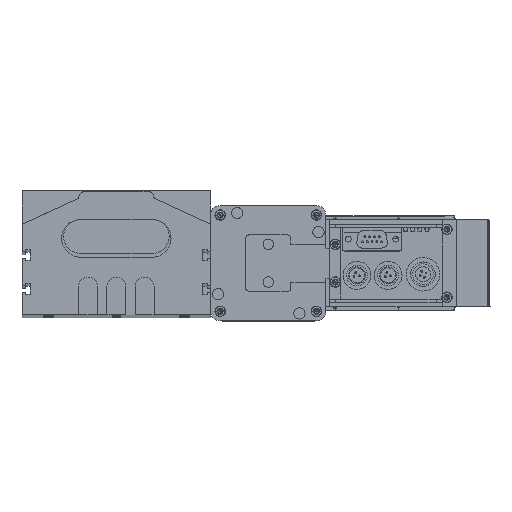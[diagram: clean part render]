
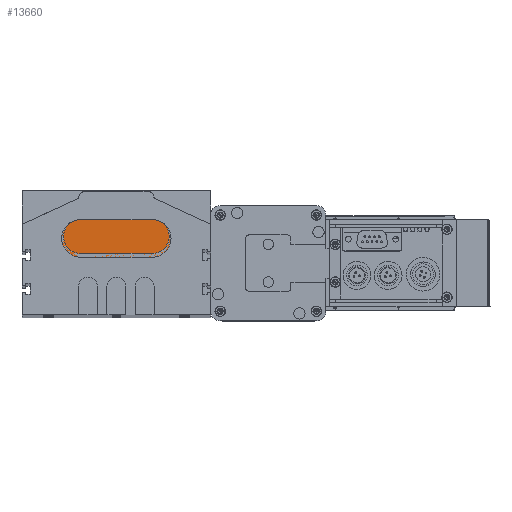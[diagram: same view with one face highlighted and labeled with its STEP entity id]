
A CAD part, top view. The second image highlights one B-rep face of the part: STEP entity #13660.
In plain terms, the highlighted planar face has unit normal (0, 0, 1).
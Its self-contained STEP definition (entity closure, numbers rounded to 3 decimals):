
#13525 = EDGE_CURVE ( 'NONE', #13563, #13541, #36943, .T. ) ;
#13541 = VERTEX_POINT ( 'NONE', #36921 ) ;
#13563 = VERTEX_POINT ( 'NONE', #36987 ) ;
#13589 = VERTEX_POINT ( 'NONE', #37041 ) ;
#13590 = VERTEX_POINT ( 'NONE', #37052 ) ;
#13607 = EDGE_CURVE ( 'NONE', #13613, #13563, #37075, .T. ) ;
#13613 = VERTEX_POINT ( 'NONE', #37111 ) ;
#13615 = EDGE_CURVE ( 'NONE', #13541, #13590, #37114, .T. ) ;
#13642 = EDGE_CURVE ( 'NONE', #13590, #13589, #37131, .T. ) ;
#13652 = ORIENTED_EDGE ( 'NONE', *, *, #13525, .T. ) ;
#13658 = ORIENTED_EDGE ( 'NONE', *, *, #13607, .T. ) ;
#13660 = ADVANCED_FACE ( 'NONE', ( #37168 ), #37171, .T. ) ;
#13662 = ORIENTED_EDGE ( 'NONE', *, *, #13615, .T. ) ;
#13664 = EDGE_LOOP ( 'NONE', ( #13658, #13652, #13662, #13688, #13689 ) ) ;
#13670 = EDGE_CURVE ( 'NONE', #13589, #13613, #37179, .T. ) ;
#13688 = ORIENTED_EDGE ( 'NONE', *, *, #13642, .T. ) ;
#13689 = ORIENTED_EDGE ( 'NONE', *, *, #13670, .T. ) ;
#36921 = CARTESIAN_POINT ( 'NONE',  ( 0., 0., 10. ) ) ;
#36932 = DIRECTION ( 'NONE',  ( 1., 0., 0. ) ) ;
#36933 = DIRECTION ( 'NONE',  ( 0., 0., 1. ) ) ;
#36943 = CIRCLE ( 'NONE', #36947, 10. ) ;
#36947 = AXIS2_PLACEMENT_3D ( 'NONE', #36953, #36933, #36932 ) ;
#36953 = CARTESIAN_POINT ( 'NONE',  ( 0., 10., 10. ) ) ;
#36987 = CARTESIAN_POINT ( 'NONE',  ( -10., 10., 10. ) ) ;
#37041 = CARTESIAN_POINT ( 'NONE',  ( 38., 20., 10. ) ) ;
#37052 = CARTESIAN_POINT ( 'NONE',  ( 38., 0., 10. ) ) ;
#37056 = DIRECTION ( 'NONE',  ( 1., 0., 0. ) ) ;
#37057 = DIRECTION ( 'NONE',  ( 0., 0., 1. ) ) ;
#37058 = CARTESIAN_POINT ( 'NONE',  ( 0., 10., 10. ) ) ;
#37059 = AXIS2_PLACEMENT_3D ( 'NONE', #37058, #37057, #37056 ) ;
#37075 = CIRCLE ( 'NONE', #37059, 10. ) ;
#37105 = DIRECTION ( 'NONE',  ( 1., 0., 0. ) ) ;
#37106 = VECTOR ( 'NONE', #37105, 1000. ) ;
#37111 = CARTESIAN_POINT ( 'NONE',  ( 0., 20., 10. ) ) ;
#37113 = CARTESIAN_POINT ( 'NONE',  ( 0., 0., 10. ) ) ;
#37114 = LINE ( 'NONE', #37113, #37106 ) ;
#37118 = DIRECTION ( 'NONE',  ( -1., 0., 0. ) ) ;
#37119 = DIRECTION ( 'NONE',  ( 0., 0., 1. ) ) ;
#37120 = CARTESIAN_POINT ( 'NONE',  ( 38., 10., 10. ) ) ;
#37121 = AXIS2_PLACEMENT_3D ( 'NONE', #37120, #37119, #37118 ) ;
#37131 = CIRCLE ( 'NONE', #37121, 10. ) ;
#37159 = DIRECTION ( 'NONE',  ( -1., 0., 0. ) ) ;
#37160 = VECTOR ( 'NONE', #37159, 1000. ) ;
#37163 = DIRECTION ( 'NONE',  ( 1., 0., 0. ) ) ;
#37167 = DIRECTION ( 'NONE',  ( 0., 0., 1. ) ) ;
#37168 = FACE_OUTER_BOUND ( 'NONE', #13664, .T. ) ;
#37169 = CARTESIAN_POINT ( 'NONE',  ( 0., 10., 10. ) ) ;
#37171 = PLANE ( 'NONE',  #37172 ) ;
#37172 = AXIS2_PLACEMENT_3D ( 'NONE', #37169, #37167, #37163 ) ;
#37178 = CARTESIAN_POINT ( 'NONE',  ( 0., 20., 10. ) ) ;
#37179 = LINE ( 'NONE', #37178, #37160 ) ;
